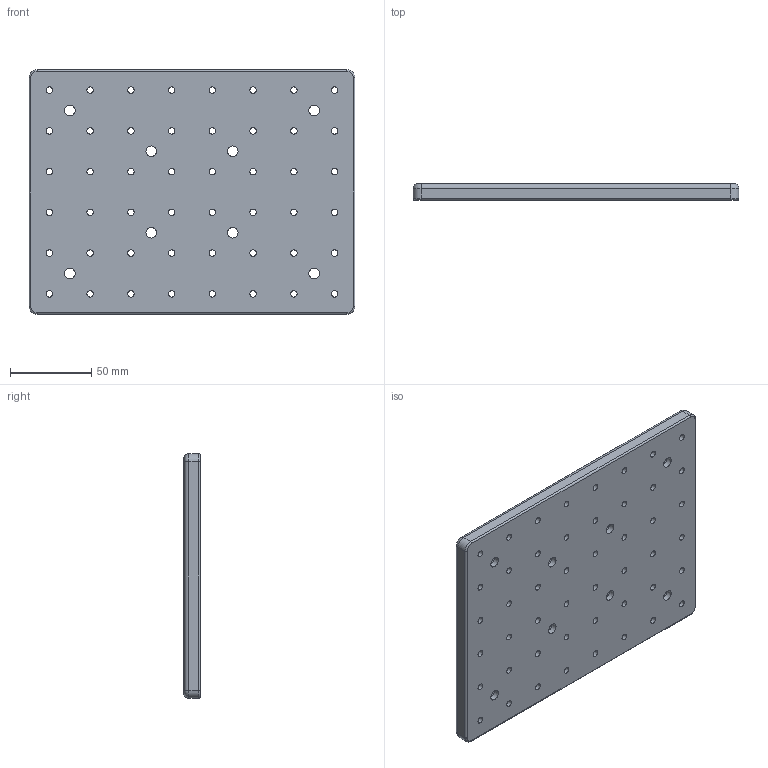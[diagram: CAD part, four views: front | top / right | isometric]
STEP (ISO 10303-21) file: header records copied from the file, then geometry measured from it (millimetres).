
FILE_DESCRIPTION (( 'STEP AP203' ), '1' );
FILE_NAME ('M-PAB-1520-10.step', '2017-01-10T01:14:54', ( '¦K¬P' ), ( '' ), 'SwSTEP 2.0', 'SolidWorks 2012', '' );
FILE_SCHEMA (( 'CONFIG_CONTROL_DESIGN' ));
Length unit declared in the file: millimetre
Products named in the file (1): M-PAB-1520-10
Bounding box: 200 x 10 x 150 mm (x, y, z)
Volume: 286407.3 mm3; surface area: 72343.1 mm2
Topology: 1 solids, 1 shells, 98 faces, 248 edges, 160 vertices
Faces by surface type: cylinder 76, plane 14, torus 8
Full cylindrical faces by diameter (mm): 4 x48, 6.5 x8, 11 x8
Entity records: 3005 total; most frequent: DIRECTION 542, CARTESIAN_POINT 443, ORIENTED_EDGE 368, EDGE_LOOP 282, AXIS2_PLACEMENT_3D 259, EDGE_CURVE 184, FACE_OUTER_BOUND 162, CIRCLE 160
